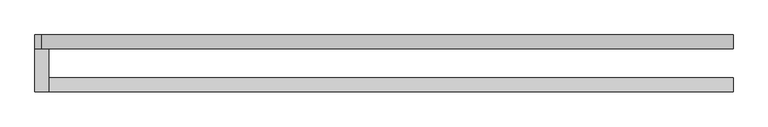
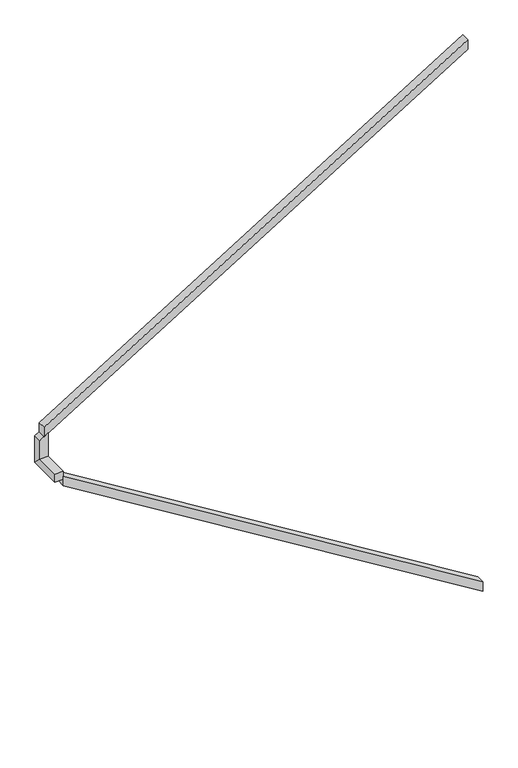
"""IFC4 building model written with IfcOpenShell, lengths in millimetres: railing geometry, 900mm 方管."""

from ifc_helpers import new_model, si_unit, origin, place, context, project, spatial, faceted_brep, source, transform, mapped, element, save


def railing_1abe3a1a(model_context):
    return source(origin(), model_context, "Body", "Brep", [
        faceted_brep([(-68380.569844, 1789.032646, 1072.5), (-68380.569844, 1739.032646, 1072.5), (-68380.569844, 1739.032646, 1013.7730044), (-68380.569844, 1789.032646, 1013.7730044), (-70850.569844, 1789.032646, 2594.1964286), (-70850.569844, 1789.032646, 2535.469433), (-70850.569844, 1739.032646, 2535.469433), (-70850.569844, 1739.032646, 2594.1964286)], [[[0, 1, 2, 3]], [[4, 5, 6, 7]], [[1, 0, 4, 7]], [[2, 1, 7, 6]], [[3, 2, 6, 5]], [[0, 3, 5, 4]]]),
        faceted_brep([(-70850.569844, 1739.032646, 2625.0), (-70900.569844, 1739.032646, 2625.0), (-70900.569844, 1739.032646, 2575.0), (-70850.569844, 1739.032646, 2575.0), (-70850.569844, 1893.0864879, 2625.0), (-70900.569844, 1893.0864879, 2625.0), (-70900.569844, 1943.0864879, 2575.0), (-70850.569844, 1943.0864879, 2575.0), (-70850.569844, 1893.0864879, 2769.5765758), (-70850.569844, 1943.0864879, 2769.5765758), (-70900.569844, 1943.0864879, 2738.7730044), (-70900.569844, 1893.0864879, 2738.7730044)], [[[0, 1, 2, 3]], [[1, 0, 4, 5]], [[2, 1, 5, 6]], [[3, 2, 6, 7]], [[0, 3, 7, 4]], [[8, 9, 10, 11]], [[5, 4, 8, 11]], [[6, 5, 11, 10]], [[7, 6, 10, 9]], [[4, 7, 9, 8]]]),
        faceted_brep([(-70875.569844, 1893.0864879, 2812.9017857), (-70875.569844, 1943.0864879, 2812.9017857), (-70875.569844, 1943.0864879, 2754.1747901), (-70875.569844, 1893.0864879, 2754.1747901), (-68380.569844, 1893.0864879, 4350.0), (-68380.569844, 1893.0864879, 4291.2730044), (-68380.569844, 1943.0864879, 4291.2730044), (-68380.569844, 1943.0864879, 4350.0)], [[[0, 1, 2, 3]], [[4, 5, 6, 7]], [[1, 0, 4, 7]], [[2, 1, 7, 6]], [[3, 2, 6, 5]], [[0, 3, 5, 4]]]),
    ])


if __name__ == "__main__":
    model = new_model("IFC4")
    model_context = context("Model", 3, world=origin())
    ifc_project = project(units=[si_unit("LENGTHUNIT", "METRE", prefix="MILLI")], contexts=[model_context])
    site = spatial("IfcSite", under=ifc_project)
    building = spatial("IfcBuilding", under=site)
    placement = place(None, origin())
    railing_shape = railing_1abe3a1a(model_context)
    element("IfcRailing", 1, ObjectType="900mm 方管", at=placement, inside=building, context=model_context, shape_type="MappedRepresentation", body=[
        mapped(railing_shape, transform((0.0, 0.0, 0.0), x_axis=(1.0, 0.0, 0.0), y_axis=(0.0, 1.0, 0.0), z_axis=(0.0, 0.0, 1.0))),
    ])
    save(model, "model.ifc")
